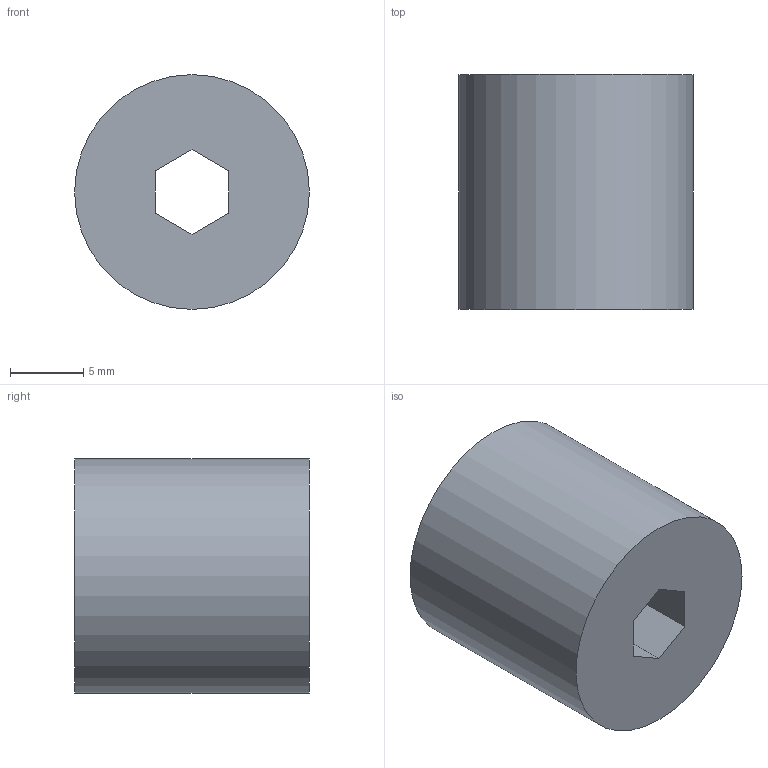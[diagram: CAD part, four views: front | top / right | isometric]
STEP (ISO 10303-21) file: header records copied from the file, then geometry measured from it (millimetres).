
FILE_DESCRIPTION(/* description */ ('STEP AP214'),/* implementation_level */ '2;1');
FILE_NAME(/* name */ '6092c10ea44a93122203e7d5',/* time_stamp */ '2021-05-05T16:00:14+00:00',/* author */ (''),/* organization */ (''),/* preprocessor_version */ 'ST-DEVELOPER v18.1',/* originating_system */ ' ',/* authorisation */ ' ');
FILE_SCHEMA (('AUTOMOTIVE_DESIGN {1 0 10303 214 3 1 1}'));
Length unit declared in the file: metre
Products named in the file (1): 3618-4008-0016
Bounding box: 16 x 16 x 16 mm (x, y, z)
Volume: 2870.6 mm3; surface area: 1440.2 mm2
Topology: 1 solids, 1 shells, 9 faces, 21 edges, 14 vertices
Faces by surface type: plane 8, cylinder 1
Full cylindrical faces by diameter (mm): 16 x1
Entity records: 286 total; most frequent: CARTESIAN_POINT 44, DIRECTION 42, ORIENTED_EDGE 40, EDGE_CURVE 20, LINE 18, VECTOR 18, VERTEX_POINT 14, EDGE_LOOP 12
